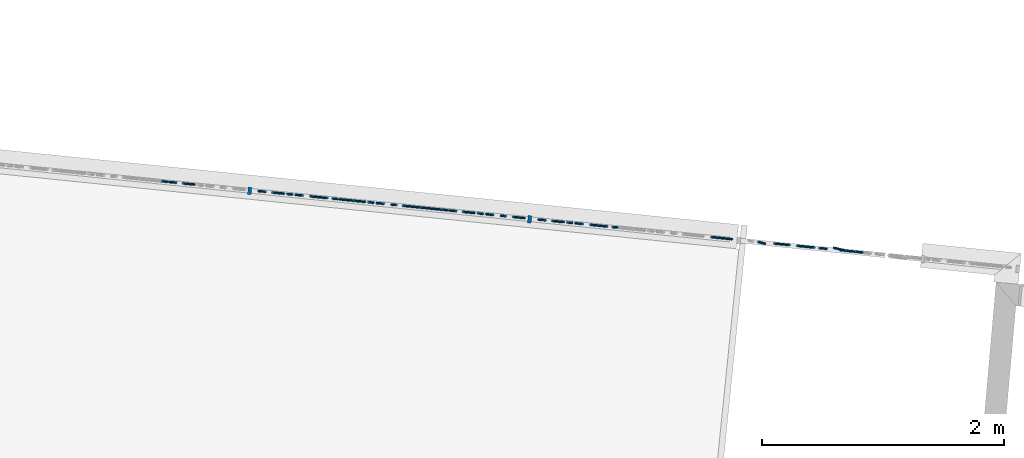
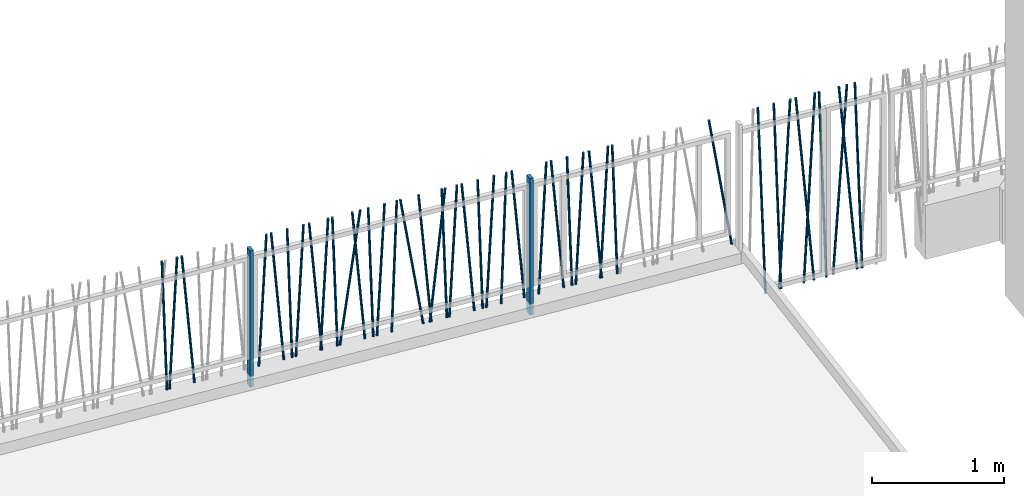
# One storey, part 16 of 171: 44 columns.
"""IFC2X3 building model written with IfcOpenShell, lengths in millimetres."""

from ifc_helpers import new_model, entity, si_unit, converted_unit, derived_unit, money_unit, direction, frame, origin_with_axes, origin_2d_with_axis, place, context, subcontext, project, spatial, rectangle, circle, extrude, clip, halfspace, material, type_object, element, save


model = new_model("IFC2X3")

# Units and contexts
model_context = context("Model", 3, precision=0.01, world=origin_with_axes(), true_north=direction((0.0, 1.0)))
body_context = subcontext(model_context, "Body", "Model", "MODEL_VIEW")
ifc_project = project(units=[si_unit("LENGTHUNIT", "METRE", prefix="MILLI"), si_unit("AREAUNIT", "SQUARE_METRE"), si_unit("VOLUMEUNIT", "CUBIC_METRE"), converted_unit("PLANEANGLEUNIT", "DEGREE", entity("IfcPlaneAngleMeasure", 0.0174532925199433), si_unit("PLANEANGLEUNIT", "RADIAN"), dimensions=[0, 0, 0, 0, 0, 0, 0]), money_unit("USD"), converted_unit("TIMEUNIT", "Year", entity("IfcTimeMeasure", 31557600.0), si_unit("TIMEUNIT", "SECOND"), dimensions=[0, 0, 1, 0, 0, 0, 0]), si_unit("MASSUNIT", "GRAM", prefix="KILO"), si_unit("THERMODYNAMICTEMPERATUREUNIT", "DEGREE_CELSIUS"), si_unit("LUMINOUSINTENSITYUNIT", "LUMEN"), si_unit("ENERGYUNIT", "JOULE", prefix="MEGA"), derived_unit("THERMALCONDUCTANCEUNIT", [(si_unit("POWERUNIT", "WATT"), 1), (si_unit("LENGTHUNIT", "METRE"), -1), (si_unit("THERMODYNAMICTEMPERATUREUNIT", "KELVIN"), -1)]), derived_unit("SPECIFICHEATCAPACITYUNIT", [(si_unit("ENERGYUNIT", "JOULE"), 1), (si_unit("MASSUNIT", "GRAM", prefix="KILO"), -1), (si_unit("THERMODYNAMICTEMPERATUREUNIT", "KELVIN"), -1)]), derived_unit("MASSDENSITYUNIT", [(si_unit("MASSUNIT", "GRAM", prefix="KILO"), 1), (si_unit("VOLUMEUNIT", "CUBIC_METRE"), -1)])], contexts=[model_context])

# Site, building, storey
site_placement = place(None, origin_with_axes())
site = spatial("IfcSite", under=ifc_project, at=site_placement, Name="Site", CompositionType="ELEMENT")
building_placement = place(site_placement, origin_with_axes())
building = spatial("IfcBuilding", under=site, at=building_placement, Name="Bâtiment", CompositionType="ELEMENT")
storey_placement = place(building_placement, frame((0.0, 0.0, 3000.0), z_axis=(0.0, 0.0, 1.0), x_axis=(1.0, 0.0, 0.0)))
storey = spatial("IfcBuildingStorey", under=building, at=storey_placement, Name="rdc", CompositionType="ELEMENT", Elevation=3000.0)

# Columns
ifc_material = material(Name="Empty Fill 2959611567")
column_type_1 = type_object("IfcColumnType", Name="Empty Fill 2959611567 D20", PredefinedType="NOTDEFINED")
column_1_placement = place(storey_placement, frame((2248791.874367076, -607236.5307750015, 149.9999999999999), z_axis=(0.0, 0.0, 1.0), x_axis=(0.1011032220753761, 0.9948759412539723, 0.0)))
element("IfcColumn", 1, at=column_1_placement, inside=storey, type_object=column_type_1, material=ifc_material, Name="Pilier-019", context=body_context, shape_type="Clipping", body=[
    clip(clip(extrude(circle(Radius=10.0, at=origin_2d_with_axis()), frame((0.0, -0.4955357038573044, -3.128689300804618), z_axis=(0.0, 0.1564344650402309, 0.9876883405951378), x_axis=(1.0, 0.0, 0.0)), (0.0, 0.0, 1.0), 1221.293528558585), halfspace(frame((0.0, 0.0, 0.0), z_axis=(0.0, 0.0, 1.0), x_axis=(0.0, -1.0, 0.0)), True)), halfspace(frame((0.0, 0.0, 1200.0), z_axis=(0.0, 0.0, -1.0), x_axis=(0.0, 1.0, 0.0)), True)),
])
column_2_placement = place(storey_placement, frame((2244146.106083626, -606764.4094551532, 149.9999999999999), z_axis=(0.0, 0.0, 1.0), x_axis=(-0.101103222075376, -0.9948759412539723, 0.0)))
element("IfcColumn", 2, at=column_2_placement, inside=storey, type_object=column_type_1, material=ifc_material, Name="Pilier-019", context=body_context, shape_type="Clipping", body=[
    clip(clip(extrude(circle(Radius=10.0, at=origin_2d_with_axis()), frame((0.0, -0.05485622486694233, -1.046719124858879), z_axis=(0.0, -0.05233595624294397, -0.9986295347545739), x_axis=(-1.0, 0.0, 0.0)), (0.0, 0.0, -1.0), 1203.743126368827), halfspace(frame((0.0, 0.0, 0.0), z_axis=(0.0, 0.0, 1.0), x_axis=(0.0, -1.0, 0.0)), True)), halfspace(frame((0.0, 0.0, 1200.0), z_axis=(0.0, 0.0, -1.0), x_axis=(0.0, 1.0, 0.0)), True)),
])
column_3_placement = place(storey_placement, frame((2244125.080000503, -606762.2727015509, 149.9999999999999), z_axis=(0.0, 0.0, 1.0), x_axis=(0.1011032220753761, 0.9948759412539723, 0.0)))
element("IfcColumn", 3, at=column_3_placement, inside=storey, type_object=column_type_1, material=ifc_material, Name="Pilier-019", context=body_context, shape_type="Clipping", body=[
    clip(clip(extrude(circle(Radius=10.0, at=origin_2d_with_axis()), frame((0.0, -0.02437434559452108, -0.6979899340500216), z_axis=(0.0, 0.03489949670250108, 0.9993908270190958), x_axis=(1.0, 0.0, 0.0)), (0.0, 0.0, 1.0), 1202.128283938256), halfspace(frame((0.0, 0.0, 0.0), z_axis=(0.0, 0.0, 1.0), x_axis=(0.0, -1.0, 0.0)), True)), halfspace(frame((0.0, 0.0, 1200.0), z_axis=(0.0, 0.0, -1.0), x_axis=(0.0, 1.0, 0.0)), True)),
])
column_4_placement = place(storey_placement, frame((2244352.1850893, -606785.3520175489, 149.9999999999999), z_axis=(0.0, 0.0, 1.0), x_axis=(0.1011032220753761, 0.9948759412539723, 0.0)))
element("IfcColumn", 4, at=column_4_placement, inside=storey, type_object=column_type_1, material=ifc_material, Name="Pilier-019", context=body_context, shape_type="Clipping", body=[
    clip(clip(extrude(circle(Radius=10.0, at=origin_2d_with_axis()), frame((0.0, -0.152502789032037, -1.743114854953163), z_axis=(0.0, 0.08715574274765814, 0.9961946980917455), x_axis=(1.0, 0.0, 0.0)), (0.0, 0.0, 1.0), 1208.083351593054), halfspace(frame((0.0, 0.0, 0.0), z_axis=(0.0, 0.0, 1.0), x_axis=(0.0, -1.0, 0.0)), True)), halfspace(frame((0.0, 0.0, 1200.0), z_axis=(0.0, 0.0, -1.0), x_axis=(0.0, 1.0, 0.0)), True)),
])
column_5_placement = place(storey_placement, frame((2245982.481847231, -606951.0292123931, 149.9999999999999), z_axis=(0.0, 0.0, 1.0), x_axis=(-0.101103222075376, -0.9948759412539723, 0.0)))
element("IfcColumn", 5, at=column_5_placement, inside=storey, type_object=column_type_1, material=ifc_material, Name="Pilier-019", context=body_context, shape_type="Clipping", body=[
    clip(clip(extrude(circle(Radius=10.0, at=origin_2d_with_axis()), frame((0.0, -0.02437434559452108, -0.6979899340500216), z_axis=(0.0, -0.03489949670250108, -0.9993908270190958), x_axis=(-1.0, 0.0, 0.0)), (0.0, 0.0, -1.0), 1202.128283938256), halfspace(frame((0.0, 0.0, 0.0), z_axis=(0.0, 0.0, 1.0), x_axis=(0.0, -1.0, 0.0)), True)), halfspace(frame((0.0, 0.0, 1200.0), z_axis=(0.0, 0.0, -1.0), x_axis=(0.0, 1.0, 0.0)), True)),
])
column_6_placement = place(storey_placement, frame((2245394.328245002, -606891.2587206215, 149.9999999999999), z_axis=(0.0, 0.0, 1.0), x_axis=(-0.101103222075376, -0.9948759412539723, 0.0)))
element("IfcColumn", 6, at=column_6_placement, inside=storey, type_object=column_type_1, material=ifc_material, Name="Pilier-019", context=body_context, shape_type="Clipping", body=[
    clip(clip(extrude(circle(Radius=10.0, at=origin_2d_with_axis()), frame((0.0, -0.05485622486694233, -1.046719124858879), z_axis=(0.0, -0.05233595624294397, -0.9986295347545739), x_axis=(-1.0, 0.0, 0.0)), (0.0, 0.0, -1.0), 1203.743126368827), halfspace(frame((0.0, 0.0, 0.0), z_axis=(0.0, 0.0, 1.0), x_axis=(0.0, -1.0, 0.0)), True)), halfspace(frame((0.0, 0.0, 1200.0), z_axis=(0.0, 0.0, -1.0), x_axis=(0.0, 1.0, 0.0)), True)),
])
for number, where, z_axis, x_axis, name in (
    (7, (2245829.642914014, -606935.4971164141, 149.9999999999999), (0.0, 0.0, 1.0), (0.1011032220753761, 0.9948759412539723, 0.0), "Pilier-019"),
    (8, (2245533.429417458, -606905.3947310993, 149.9999999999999), (0.0, 0.0, 1.0), (0.1011032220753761, 0.9948759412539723, 0.0), "Pilier-019"),
):
    element("IfcColumn", number, at=place(storey_placement, frame(where, z_axis=z_axis, x_axis=x_axis)), inside=storey, type_object=column_type_1, material=ifc_material, Name=name, context=body_context, shape_type="Clipping", body=[
        clip(clip(extrude(circle(Radius=10.0, at=origin_2d_with_axis()), frame((0.0, -0.02437434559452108, -0.6979899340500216), z_axis=(0.0, 0.03489949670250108, 0.9993908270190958), x_axis=(1.0, 0.0, 0.0)), (0.0, 0.0, 1.0), 1202.128283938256), halfspace(frame((0.0, 0.0, 0.0), z_axis=(0.0, 0.0, 1.0), x_axis=(0.0, -1.0, 0.0)), True)), halfspace(frame((0.0, 0.0, 1200.0), z_axis=(0.0, 0.0, -1.0), x_axis=(0.0, 1.0, 0.0)), True)),
    ])
column_7_placement = place(storey_placement, frame((2245860.775720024, -606938.6609551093, 149.9999999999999), z_axis=(0.0, 0.0, 1.0), x_axis=(-0.101103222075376, -0.9948759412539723, 0.0)))
element("IfcColumn", 9, at=column_7_placement, inside=storey, type_object=column_type_1, material=ifc_material, Name="Pilier-019", context=body_context, shape_type="Clipping", body=[
    clip(clip(extrude(circle(Radius=10.0, at=origin_2d_with_axis()), frame((0.0, -0.05485622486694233, -1.046719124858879), z_axis=(0.0, -0.05233595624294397, -0.9986295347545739), x_axis=(-1.0, 0.0, 0.0)), (0.0, 0.0, -1.0), 1203.743126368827), halfspace(frame((0.0, 0.0, 0.0), z_axis=(0.0, 0.0, 1.0), x_axis=(0.0, -1.0, 0.0)), True)), halfspace(frame((0.0, 0.0, 1200.0), z_axis=(0.0, 0.0, -1.0), x_axis=(0.0, 1.0, 0.0)), True)),
])
column_8_placement = place(storey_placement, frame((2246242.480942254, -606977.4513472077, 149.9999999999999), z_axis=(0.0, 0.0, 1.0), x_axis=(0.1011032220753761, 0.9948759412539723, 0.0)))
element("IfcColumn", 10, at=column_8_placement, inside=storey, type_object=column_type_1, material=ifc_material, Name="Pilier-019", context=body_context, shape_type="Clipping", body=[
    clip(clip(extrude(circle(Radius=10.0, at=origin_2d_with_axis()), frame((0.0, -0.4955357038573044, -3.128689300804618), z_axis=(0.0, 0.1564344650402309, 0.9876883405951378), x_axis=(1.0, 0.0, 0.0)), (0.0, 0.0, 1.0), 1221.293528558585), halfspace(frame((0.0, 0.0, 0.0), z_axis=(0.0, 0.0, 1.0), x_axis=(0.0, -1.0, 0.0)), True)), halfspace(frame((0.0, 0.0, 1200.0), z_axis=(0.0, 0.0, -1.0), x_axis=(0.0, 1.0, 0.0)), True)),
])
for number, where, z_axis, x_axis, name in (
    (11, (2246308.389985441, -606984.1492844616, 149.9999999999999), (0.0, 0.0, 1.0), (0.1011032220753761, 0.9948759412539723, 0.0), "Pilier-019"),
    (12, (2247078.294760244, -607062.390048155, 149.9999999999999), (0.0, 0.0, 1.0), (0.1011032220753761, 0.9948759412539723, 0.0), "Pilier-019"),
):
    element("IfcColumn", number, at=place(storey_placement, frame(where, z_axis=z_axis, x_axis=x_axis)), inside=storey, type_object=column_type_1, material=ifc_material, Name=name, context=body_context, shape_type="Clipping", body=[
        clip(clip(extrude(circle(Radius=10.0, at=origin_2d_with_axis()), frame((0.0, -0.152502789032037, -1.743114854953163), z_axis=(0.0, 0.08715574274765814, 0.9961946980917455), x_axis=(1.0, 0.0, 0.0)), (0.0, 0.0, 1.0), 1208.083351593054), halfspace(frame((0.0, 0.0, 0.0), z_axis=(0.0, 0.0, 1.0), x_axis=(0.0, -1.0, 0.0)), True)), halfspace(frame((0.0, 0.0, 1200.0), z_axis=(0.0, 0.0, -1.0), x_axis=(0.0, 1.0, 0.0)), True)),
    ])
column_9_placement = place(storey_placement, frame((2245190.790650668, -606870.5744264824, 149.9999999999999), z_axis=(0.0, 0.0, 1.0), x_axis=(-0.101103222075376, -0.9948759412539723, 0.0)))
element("IfcColumn", 13, at=column_9_placement, inside=storey, type_object=column_type_1, material=ifc_material, Name="Pilier-019", context=body_context, shape_type="Clipping", body=[
    clip(clip(extrude(circle(Radius=10.0, at=origin_2d_with_axis()), frame((0.0, -0.05485622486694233, -1.046719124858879), z_axis=(0.0, -0.05233595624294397, -0.9986295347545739), x_axis=(-1.0, 0.0, 0.0)), (0.0, 0.0, -1.0), 1203.743126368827), halfspace(frame((0.0, 0.0, 0.0), z_axis=(0.0, 0.0, 1.0), x_axis=(0.0, -1.0, 0.0)), True)), halfspace(frame((0.0, 0.0, 1200.0), z_axis=(0.0, 0.0, -1.0), x_axis=(0.0, 1.0, 0.0)), True)),
])
for number, where, z_axis, x_axis, name in (
    (14, (2245404.182133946, -606892.2601117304, 149.9999999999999), (0.0, 0.0, 1.0), (0.1011032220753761, 0.9948759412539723, 0.0), "Pilier-019"),
    (15, (2245760.534506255, -606928.4740470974, 149.9999999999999), (0.0, 0.0, 1.0), (0.1011032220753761, 0.9948759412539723, 0.0), "Pilier-019"),
):
    element("IfcColumn", number, at=place(storey_placement, frame(where, z_axis=z_axis, x_axis=x_axis)), inside=storey, type_object=column_type_1, material=ifc_material, Name=name, context=body_context, shape_type="Clipping", body=[
        clip(clip(extrude(circle(Radius=10.0, at=origin_2d_with_axis()), frame((0.0, -0.152502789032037, -1.743114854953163), z_axis=(0.0, 0.08715574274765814, 0.9961946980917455), x_axis=(1.0, 0.0, 0.0)), (0.0, 0.0, 1.0), 1208.083351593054), halfspace(frame((0.0, 0.0, 0.0), z_axis=(0.0, 0.0, 1.0), x_axis=(0.0, -1.0, 0.0)), True)), halfspace(frame((0.0, 0.0, 1200.0), z_axis=(0.0, 0.0, -1.0), x_axis=(0.0, 1.0, 0.0)), True)),
    ])
column_10_placement = place(storey_placement, frame((2246298.536096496, -606983.1478933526, 149.9999999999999), z_axis=(0.0, 0.0, 1.0), x_axis=(-0.101103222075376, -0.9948759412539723, 0.0)))
element("IfcColumn", 16, at=column_10_placement, inside=storey, type_object=column_type_1, material=ifc_material, Name="Pilier-019", context=body_context, shape_type="Clipping", body=[
    clip(clip(extrude(circle(Radius=10.0, at=origin_2d_with_axis()), frame((0.0, -0.2197276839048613, -2.090569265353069), z_axis=(0.0, -0.1045284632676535, -0.9945218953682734), x_axis=(-1.0, 0.0, 0.0)), (0.0, 0.0, -1.0), 1210.814104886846), halfspace(frame((0.0, 0.0, 0.0), z_axis=(0.0, 0.0, 1.0), x_axis=(0.0, -1.0, 0.0)), True)), halfspace(frame((0.0, 0.0, 1200.0), z_axis=(0.0, 0.0, -1.0), x_axis=(0.0, 1.0, 0.0)), True)),
])
column_11_placement = place(storey_placement, frame((2246764.983571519, -607030.5501278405, 149.9999999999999), z_axis=(0.0, 0.0, 1.0), x_axis=(-0.101103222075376, -0.9948759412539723, 0.0)))
element("IfcColumn", 17, at=column_11_placement, inside=storey, type_object=column_type_1, material=ifc_material, Name="Pilier-019", context=body_context, shape_type="Clipping", body=[
    clip(clip(extrude(circle(Radius=10.0, at=origin_2d_with_axis()), frame((0.0, -0.05485622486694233, -1.046719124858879), z_axis=(0.0, -0.05233595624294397, -0.9986295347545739), x_axis=(-1.0, 0.0, 0.0)), (0.0, 0.0, -1.0), 1203.743126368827), halfspace(frame((0.0, 0.0, 0.0), z_axis=(0.0, 0.0, 1.0), x_axis=(0.0, -1.0, 0.0)), True)), halfspace(frame((0.0, 0.0, 1200.0), z_axis=(0.0, 0.0, -1.0), x_axis=(0.0, 1.0, 0.0)), True)),
])
for number, where, z_axis, x_axis, name in (
    (18, (2245159.657844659, -606867.4105877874, 149.9999999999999), (0.0, 0.0, 1.0), (0.1011032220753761, 0.9948759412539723, 0.0), "Pilier-019"),
    (19, (2246733.85076551, -607027.3862891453, 149.9999999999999), (0.0, 0.0, 1.0), (0.1011032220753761, 0.9948759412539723, 0.0), "Pilier-019"),
):
    element("IfcColumn", number, at=place(storey_placement, frame(where, z_axis=z_axis, x_axis=x_axis)), inside=storey, type_object=column_type_1, material=ifc_material, Name=name, context=body_context, shape_type="Clipping", body=[
        clip(clip(extrude(circle(Radius=10.0, at=origin_2d_with_axis()), frame((0.0, -0.02437434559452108, -0.6979899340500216), z_axis=(0.0, 0.03489949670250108, 0.9993908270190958), x_axis=(1.0, 0.0, 0.0)), (0.0, 0.0, 1.0), 1202.128283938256), halfspace(frame((0.0, 0.0, 0.0), z_axis=(0.0, 0.0, 1.0), x_axis=(0.0, -1.0, 0.0)), True)), halfspace(frame((0.0, 0.0, 1200.0), z_axis=(0.0, 0.0, -1.0), x_axis=(0.0, 1.0, 0.0)), True)),
    ])
column_12_placement = place(storey_placement, frame((2246886.689698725, -607042.9183851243, 149.9999999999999), z_axis=(0.0, 0.0, 1.0), x_axis=(-0.101103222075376, -0.9948759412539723, 0.0)))
element("IfcColumn", 20, at=column_12_placement, inside=storey, type_object=column_type_1, material=ifc_material, Name="Pilier-019", context=body_context, shape_type="Clipping", body=[
    clip(clip(extrude(circle(Radius=10.0, at=origin_2d_with_axis()), frame((0.0, -0.02437434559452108, -0.6979899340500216), z_axis=(0.0, -0.03489949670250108, -0.9993908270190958), x_axis=(-1.0, 0.0, 0.0)), (0.0, 0.0, -1.0), 1202.128283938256), halfspace(frame((0.0, 0.0, 0.0), z_axis=(0.0, 0.0, 1.0), x_axis=(0.0, -1.0, 0.0)), True)), halfspace(frame((0.0, 0.0, 1200.0), z_axis=(0.0, 0.0, -1.0), x_axis=(0.0, 1.0, 0.0)), True)),
])
column_13_placement = place(storey_placement, frame((2246664.742357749, -607020.3632198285, 149.9999999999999), z_axis=(0.0, 0.0, 1.0), x_axis=(0.1011032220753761, 0.9948759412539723, 0.0)))
element("IfcColumn", 21, at=column_13_placement, inside=storey, type_object=column_type_1, material=ifc_material, Name="Pilier-019", context=body_context, shape_type="Clipping", body=[
    clip(clip(extrude(circle(Radius=10.0, at=origin_2d_with_axis()), frame((0.0, -0.152502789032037, -1.743114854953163), z_axis=(0.0, 0.08715574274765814, 0.9961946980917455), x_axis=(1.0, 0.0, 0.0)), (0.0, 0.0, 1.0), 1208.083351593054), halfspace(frame((0.0, 0.0, 0.0), z_axis=(0.0, 0.0, 1.0), x_axis=(0.0, -1.0, 0.0)), True)), halfspace(frame((0.0, 0.0, 1200.0), z_axis=(0.0, 0.0, -1.0), x_axis=(0.0, 1.0, 0.0)), True)),
])
column_14_placement = place(storey_placement, frame((2246458.663352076, -606999.4206574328, 149.9999999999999), z_axis=(0.0, 0.0, 1.0), x_axis=(-0.101103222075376, -0.9948759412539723, 0.0)))
element("IfcColumn", 22, at=column_14_placement, inside=storey, type_object=column_type_1, material=ifc_material, Name="Pilier-019", context=body_context, shape_type="Clipping", body=[
    clip(clip(extrude(circle(Radius=10.0, at=origin_2d_with_axis()), frame((0.0, -0.05485622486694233, -1.046719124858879), z_axis=(0.0, -0.05233595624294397, -0.9986295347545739), x_axis=(-1.0, 0.0, 0.0)), (0.0, 0.0, -1.0), 1203.743126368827), halfspace(frame((0.0, 0.0, 0.0), z_axis=(0.0, 0.0, 1.0), x_axis=(0.0, -1.0, 0.0)), True)), halfspace(frame((0.0, 0.0, 1200.0), z_axis=(0.0, 0.0, -1.0), x_axis=(0.0, 1.0, 0.0)), True)),
])
column_15_placement = place(storey_placement, frame((2246437.637268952, -606997.2839038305, 149.9999999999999), z_axis=(0.0, 0.0, 1.0), x_axis=(0.1011032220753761, 0.9948759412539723, 0.0)))
element("IfcColumn", 23, at=column_15_placement, inside=storey, type_object=column_type_1, material=ifc_material, Name="Pilier-019", context=body_context, shape_type="Clipping", body=[
    clip(clip(extrude(circle(Radius=10.0, at=origin_2d_with_axis()), frame((0.0, -0.02437434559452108, -0.6979899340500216), z_axis=(0.0, 0.03489949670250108, 0.9993908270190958), x_axis=(1.0, 0.0, 0.0)), (0.0, 0.0, 1.0), 1202.128283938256), halfspace(frame((0.0, 0.0, 0.0), z_axis=(0.0, 0.0, 1.0), x_axis=(0.0, -1.0, 0.0)), True)), halfspace(frame((0.0, 0.0, 1200.0), z_axis=(0.0, 0.0, -1.0), x_axis=(0.0, 1.0, 0.0)), True)),
])
column_16_placement = place(storey_placement, frame((2245090.549436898, -606860.3875184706, 149.9999999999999), z_axis=(0.0, 0.0, 1.0), x_axis=(0.1011032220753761, 0.9948759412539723, 0.0)))
element("IfcColumn", 24, at=column_16_placement, inside=storey, type_object=column_type_1, material=ifc_material, Name="Pilier-019", context=body_context, shape_type="Clipping", body=[
    clip(clip(extrude(circle(Radius=10.0, at=origin_2d_with_axis()), frame((0.0, -0.152502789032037, -1.743114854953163), z_axis=(0.0, 0.08715574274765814, 0.9961946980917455), x_axis=(1.0, 0.0, 0.0)), (0.0, 0.0, 1.0), 1208.083351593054), halfspace(frame((0.0, 0.0, 0.0), z_axis=(0.0, 0.0, 1.0), x_axis=(0.0, -1.0, 0.0)), True)), halfspace(frame((0.0, 0.0, 1200.0), z_axis=(0.0, 0.0, -1.0), x_axis=(0.0, 1.0, 0.0)), True)),
])
column_17_placement = place(storey_placement, frame((2244884.470431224, -606839.4449560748, 149.9999999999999), z_axis=(0.0, 0.0, 1.0), x_axis=(-0.101103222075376, -0.9948759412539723, 0.0)))
element("IfcColumn", 25, at=column_17_placement, inside=storey, type_object=column_type_1, material=ifc_material, Name="Pilier-019", context=body_context, shape_type="Clipping", body=[
    clip(clip(extrude(circle(Radius=10.0, at=origin_2d_with_axis()), frame((0.0, -0.05485622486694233, -1.046719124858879), z_axis=(0.0, -0.05233595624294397, -0.9986295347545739), x_axis=(-1.0, 0.0, 0.0)), (0.0, 0.0, -1.0), 1203.743126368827), halfspace(frame((0.0, 0.0, 0.0), z_axis=(0.0, 0.0, 1.0), x_axis=(0.0, -1.0, 0.0)), True)), halfspace(frame((0.0, 0.0, 1200.0), z_axis=(0.0, 0.0, -1.0), x_axis=(0.0, 1.0, 0.0)), True)),
])
column_18_placement = place(storey_placement, frame((2245554.455500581, -606907.5314847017, 149.9999999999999), z_axis=(0.0, 0.0, 1.0), x_axis=(-0.101103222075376, -0.9948759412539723, 0.0)))
element("IfcColumn", 26, at=column_18_placement, inside=storey, type_object=column_type_1, material=ifc_material, Name="Pilier-019", context=body_context, shape_type="Clipping", body=[
    clip(clip(extrude(circle(Radius=10.0, at=origin_2d_with_axis()), frame((0.0, -0.3911900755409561, -2.78346201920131), z_axis=(0.0, -0.1391731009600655, -0.9902680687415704), x_axis=(-1.0, 0.0, 0.0)), (0.0, 0.0, -1.0), 1217.414720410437), halfspace(frame((0.0, 0.0, 0.0), z_axis=(0.0, 0.0, 1.0), x_axis=(0.0, -1.0, 0.0)), True)), halfspace(frame((0.0, 0.0, 1200.0), z_axis=(0.0, 0.0, -1.0), x_axis=(0.0, 1.0, 0.0)), True)),
])
column_19_placement = place(storey_placement, frame((2247706.885513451, -607126.269922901, 149.9999999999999), z_axis=(0.0, 0.0, 1.0), x_axis=(-0.101103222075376, -0.9948759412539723, 0.0)))
element("IfcColumn", 27, at=column_19_placement, inside=storey, type_object=column_type_1, material=ifc_material, Name="Pilier-019", context=body_context, shape_type="Clipping", body=[
    clip(clip(extrude(circle(Radius=10.0, at=origin_2d_with_axis()), frame((0.0, -0.05485622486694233, -1.046719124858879), z_axis=(0.0, -0.05233595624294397, -0.9986295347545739), x_axis=(-1.0, 0.0, 0.0)), (0.0, 0.0, -1.0), 1203.743126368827), halfspace(frame((0.0, 0.0, 0.0), z_axis=(0.0, 0.0, 1.0), x_axis=(0.0, -1.0, 0.0)), True)), halfspace(frame((0.0, 0.0, 1200.0), z_axis=(0.0, 0.0, -1.0), x_axis=(0.0, 1.0, 0.0)), True)),
])
column_20_placement = place(storey_placement, frame((2247845.986685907, -607140.4059333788, 149.9999999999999), z_axis=(0.0, 0.0, 1.0), x_axis=(0.1011032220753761, 0.9948759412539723, 0.0)))
element("IfcColumn", 28, at=column_20_placement, inside=storey, type_object=column_type_1, material=ifc_material, Name="Pilier-019", context=body_context, shape_type="Clipping", body=[
    clip(clip(extrude(circle(Radius=10.0, at=origin_2d_with_axis()), frame((0.0, -0.02437434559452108, -0.6979899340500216), z_axis=(0.0, 0.03489949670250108, 0.9993908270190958), x_axis=(1.0, 0.0, 0.0)), (0.0, 0.0, 1.0), 1202.128283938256), halfspace(frame((0.0, 0.0, 0.0), z_axis=(0.0, 0.0, 1.0), x_axis=(0.0, -1.0, 0.0)), True)), halfspace(frame((0.0, 0.0, 1200.0), z_axis=(0.0, 0.0, -1.0), x_axis=(0.0, 1.0, 0.0)), True)),
])
column_21_placement = place(storey_placement, frame((2247403.106705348, -607095.3987207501, 149.9999999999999), z_axis=(0.0, 0.0, 1.0), x_axis=(0.1011032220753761, 0.9948759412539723, 0.0)))
element("IfcColumn", 29, at=column_21_placement, inside=storey, type_object=column_type_1, material=ifc_material, Name="Pilier-019", context=body_context, shape_type="Clipping", body=[
    clip(clip(extrude(circle(Radius=10.0, at=origin_2d_with_axis()), frame((0.0, -0.152502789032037, -1.743114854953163), z_axis=(0.0, 0.08715574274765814, 0.9961946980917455), x_axis=(1.0, 0.0, 0.0)), (0.0, 0.0, 1.0), 1208.083351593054), halfspace(frame((0.0, 0.0, 0.0), z_axis=(0.0, 0.0, 1.0), x_axis=(0.0, -1.0, 0.0)), True)), halfspace(frame((0.0, 0.0, 1200.0), z_axis=(0.0, 0.0, -1.0), x_axis=(0.0, 1.0, 0.0)), True)),
])
column_22_placement = place(storey_placement, frame((2247503.347919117, -607105.585628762, 149.9999999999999), z_axis=(0.0, 0.0, 1.0), x_axis=(-0.101103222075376, -0.9948759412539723, 0.0)))
element("IfcColumn", 30, at=column_22_placement, inside=storey, type_object=column_type_1, material=ifc_material, Name="Pilier-019", context=body_context, shape_type="Clipping", body=[
    clip(clip(extrude(circle(Radius=10.0, at=origin_2d_with_axis()), frame((0.0, -0.05485622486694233, -1.046719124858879), z_axis=(0.0, -0.05233595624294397, -0.9986295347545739), x_axis=(-1.0, 0.0, 0.0)), (0.0, 0.0, -1.0), 1203.743126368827), halfspace(frame((0.0, 0.0, 0.0), z_axis=(0.0, 0.0, 1.0), x_axis=(0.0, -1.0, 0.0)), True)), halfspace(frame((0.0, 0.0, 1200.0), z_axis=(0.0, 0.0, -1.0), x_axis=(0.0, 1.0, 0.0)), True)),
])
column_23_placement = place(storey_placement, frame((2247716.739402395, -607127.27131401, 149.9999999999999), z_axis=(0.0, 0.0, 1.0), x_axis=(0.1011032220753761, 0.9948759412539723, 0.0)))
element("IfcColumn", 31, at=column_23_placement, inside=storey, type_object=column_type_1, material=ifc_material, Name="Pilier-019", context=body_context, shape_type="Clipping", body=[
    clip(clip(extrude(circle(Radius=10.0, at=origin_2d_with_axis()), frame((0.0, -0.152502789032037, -1.743114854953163), z_axis=(0.0, 0.08715574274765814, 0.9961946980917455), x_axis=(1.0, 0.0, 0.0)), (0.0, 0.0, 1.0), 1208.083351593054), halfspace(frame((0.0, 0.0, 0.0), z_axis=(0.0, 0.0, 1.0), x_axis=(0.0, -1.0, 0.0)), True)), halfspace(frame((0.0, 0.0, 1200.0), z_axis=(0.0, 0.0, -1.0), x_axis=(0.0, 1.0, 0.0)), True)),
])
column_24_placement = place(storey_placement, frame((2247472.215113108, -607102.421790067, 149.9999999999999), z_axis=(0.0, 0.0, 1.0), x_axis=(0.1011032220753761, 0.9948759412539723, 0.0)))
element("IfcColumn", 32, at=column_24_placement, inside=storey, type_object=column_type_1, material=ifc_material, Name="Pilier-019", context=body_context, shape_type="Clipping", body=[
    clip(clip(extrude(circle(Radius=10.0, at=origin_2d_with_axis()), frame((0.0, -0.02437434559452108, -0.6979899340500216), z_axis=(0.0, 0.03489949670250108, 0.9993908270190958), x_axis=(1.0, 0.0, 0.0)), (0.0, 0.0, 1.0), 1202.128283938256), halfspace(frame((0.0, 0.0, 0.0), z_axis=(0.0, 0.0, 1.0), x_axis=(0.0, -1.0, 0.0)), True)), halfspace(frame((0.0, 0.0, 1200.0), z_axis=(0.0, 0.0, -1.0), x_axis=(0.0, 1.0, 0.0)), True)),
])
column_25_placement = place(storey_placement, frame((2247197.027699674, -607074.4561583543, 149.9999999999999), z_axis=(0.0, 0.0, 1.0), x_axis=(-0.101103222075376, -0.9948759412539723, 0.0)))
element("IfcColumn", 33, at=column_25_placement, inside=storey, type_object=column_type_1, material=ifc_material, Name="Pilier-019", context=body_context, shape_type="Clipping", body=[
    clip(clip(extrude(circle(Radius=10.0, at=origin_2d_with_axis()), frame((0.0, -0.05485622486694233, -1.046719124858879), z_axis=(0.0, -0.05233595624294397, -0.9986295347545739), x_axis=(-1.0, 0.0, 0.0)), (0.0, 0.0, -1.0), 1203.743126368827), halfspace(frame((0.0, 0.0, 0.0), z_axis=(0.0, 0.0, 1.0), x_axis=(0.0, -1.0, 0.0)), True)), halfspace(frame((0.0, 0.0, 1200.0), z_axis=(0.0, 0.0, -1.0), x_axis=(0.0, 1.0, 0.0)), True)),
])
column_26_placement = place(storey_placement, frame((2249388.225414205, -607297.1343234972, -379.1802337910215), z_axis=(0.0, 0.0, 1.0), x_axis=(-0.101103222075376, -0.9948759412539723, 0.0)))
element("IfcColumn", 34, at=column_26_placement, inside=storey, type_object=column_type_1, material=ifc_material, Name="Pilier-019", context=body_context, shape_type="Clipping", body=[
    clip(clip(extrude(circle(Radius=10.0, at=origin_2d_with_axis()), frame((0.0, -0.05485622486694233, -1.046719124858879), z_axis=(0.0, -0.05233595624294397, -0.9986295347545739), x_axis=(-1.0, 0.0, 0.0)), (0.0, 0.0, -1.0), 1733.64957853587), halfspace(frame((0.0, 0.0, 0.0), z_axis=(0.0, 0.0, 1.0), x_axis=(0.0, -1.0, 0.0)), True)), halfspace(frame((0.0, 0.0, 1729.180233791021), z_axis=(0.0, 0.0, -1.0), x_axis=(0.0, 1.0, 0.0)), True)),
])
for number, where, z_axis, x_axis, name in (
    (35, (2249869.515829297, -607346.044956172, -379.1802337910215), (0.0, 0.0, 1.0), (0.1011032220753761, 0.9948759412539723, 0.0), "Pilier-019"),
    (36, (2249573.30233274, -607315.9425708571, -379.1802337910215), (0.0, 0.0, 1.0), (0.1011032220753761, 0.9948759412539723, 0.0), "Pilier-019"),
):
    element("IfcColumn", number, at=place(storey_placement, frame(where, z_axis=z_axis, x_axis=x_axis)), inside=storey, type_object=column_type_1, material=ifc_material, Name=name, context=body_context, shape_type="Clipping", body=[
        clip(clip(extrude(circle(Radius=10.0, at=origin_2d_with_axis()), frame((0.0, -0.02437434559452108, -0.6979899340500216), z_axis=(0.0, 0.03489949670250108, 0.9993908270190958), x_axis=(1.0, 0.0, 0.0)), (0.0, 0.0, 1.0), 1731.631076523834), halfspace(frame((0.0, 0.0, 0.0), z_axis=(0.0, 0.0, 1.0), x_axis=(0.0, -1.0, 0.0)), True)), halfspace(frame((0.0, 0.0, 1729.180233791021), z_axis=(0.0, 0.0, -1.0), x_axis=(0.0, 1.0, 0.0)), True)),
    ])
column_27_placement = place(storey_placement, frame((2249184.687819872, -607276.4500293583, -379.1802337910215), z_axis=(0.0, 0.0, 1.0), x_axis=(-0.101103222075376, -0.9948759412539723, 0.0)))
element("IfcColumn", 37, at=column_27_placement, inside=storey, type_object=column_type_1, material=ifc_material, Name="Pilier-019", context=body_context, shape_type="Clipping", body=[
    clip(clip(extrude(circle(Radius=10.0, at=origin_2d_with_axis()), frame((0.0, -0.05485622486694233, -1.046719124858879), z_axis=(0.0, -0.05233595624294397, -0.9986295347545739), x_axis=(-1.0, 0.0, 0.0)), (0.0, 0.0, -1.0), 1733.64957853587), halfspace(frame((0.0, 0.0, 0.0), z_axis=(0.0, 0.0, 1.0), x_axis=(0.0, -1.0, 0.0)), True)), halfspace(frame((0.0, 0.0, 1729.180233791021), z_axis=(0.0, 0.0, -1.0), x_axis=(0.0, 1.0, 0.0)), True)),
])
column_28_placement = place(storey_placement, frame((2249199.53075994, -607277.9584275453, -379.1802337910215), z_axis=(0.0, 0.0, 1.0), x_axis=(0.1011032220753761, 0.9948759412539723, 0.0)))
element("IfcColumn", 38, at=column_28_placement, inside=storey, type_object=column_type_1, material=ifc_material, Name="Pilier-019", context=body_context, shape_type="Clipping", body=[
    clip(clip(extrude(circle(Radius=10.0, at=origin_2d_with_axis()), frame((0.0, -0.02437434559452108, -0.6979899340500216), z_axis=(0.0, 0.03489949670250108, 0.9993908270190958), x_axis=(1.0, 0.0, 0.0)), (0.0, 0.0, 1.0), 1731.631076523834), halfspace(frame((0.0, 0.0, 0.0), z_axis=(0.0, 0.0, 1.0), x_axis=(0.0, -1.0, 0.0)), True)), halfspace(frame((0.0, 0.0, 1729.180233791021), z_axis=(0.0, 0.0, -1.0), x_axis=(0.0, 1.0, 0.0)), True)),
])
for number, where, z_axis, x_axis, name in (
    (39, (2249828.082771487, -607341.8343652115, -379.1802337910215), (0.0, 0.0, 1.0), (0.1011032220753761, 0.9948759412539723, 0.0), "Pilier-019"),
    (40, (2249471.730399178, -607305.6204298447, -379.1802337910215), (0.0, 0.0, 1.0), (0.1011032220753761, 0.9948759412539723, 0.0), "Pilier-019"),
):
    element("IfcColumn", number, at=place(storey_placement, frame(where, z_axis=z_axis, x_axis=x_axis)), inside=storey, type_object=column_type_1, material=ifc_material, Name=name, context=body_context, shape_type="Clipping", body=[
        clip(clip(extrude(circle(Radius=10.0, at=origin_2d_with_axis()), frame((0.0, -0.152502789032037, -1.743114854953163), z_axis=(0.0, 0.08715574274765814, 0.9961946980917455), x_axis=(1.0, 0.0, 0.0)), (0.0, 0.0, 1.0), 1739.284967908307), halfspace(frame((0.0, 0.0, 0.0), z_axis=(0.0, 0.0, 1.0), x_axis=(0.0, -1.0, 0.0)), True)), halfspace(frame((0.0, 0.0, 1729.180233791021), z_axis=(0.0, 0.0, -1.0), x_axis=(0.0, 1.0, 0.0)), True)),
    ])
column_29_placement = place(storey_placement, frame((2249065.78428398, -607273.7478365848, -379.1802337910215), z_axis=(0.0, 0.0, 1.0), x_axis=(0.2541944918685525, 0.9671531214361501, 0.0)))
element("IfcColumn", 41, at=column_29_placement, inside=storey, type_object=column_type_1, material=ifc_material, Name="Pilier-019", context=body_context, shape_type="Clipping", body=[
    clip(clip(extrude(circle(Radius=10.0, at=origin_2d_with_axis()), frame((0.0, -0.02420296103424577, -0.6955331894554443), z_axis=(0.0, 0.03477665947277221, 0.9993951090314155), x_axis=(1.0, 0.0, 0.0)), (0.0, 0.0, 1.0), 1731.618740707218), halfspace(frame((0.0, 0.0, 0.0), z_axis=(0.0, 0.0, 1.0), x_axis=(0.0, -1.0, 0.0)), True)), halfspace(frame((0.0, 0.0, 1729.180233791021), z_axis=(0.0, 0.0, -1.0), x_axis=(0.0, 1.0, 0.0)), True)),
])
column_30_placement = place(storey_placement, frame((2249637.406868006, -607308.6918081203, -379.1802337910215), z_axis=(0.0, 0.0, 1.0), x_axis=(-0.2251585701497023, -0.9743221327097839, 0.0)))
element("IfcColumn", 42, at=column_30_placement, inside=storey, type_object=column_type_1, material=ifc_material, Name="Pilier-019", context=body_context, shape_type="Clipping", body=[
    clip(clip(extrude(circle(Radius=10.0, at=origin_2d_with_axis()), frame((0.0, -0.0794922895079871, -1.259638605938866), z_axis=(0.0, -0.0629819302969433, -0.9980146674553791), x_axis=(-1.0, 0.0, 0.0)), (0.0, 0.0, -1.0), 1735.144349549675), halfspace(frame((0.0, 0.0, 0.0), z_axis=(0.0, 0.0, 1.0), x_axis=(0.0, -1.0, 0.0)), True)), halfspace(frame((0.0, 0.0, 1729.180233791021), z_axis=(0.0, 0.0, -1.0), x_axis=(0.0, 1.0, 0.0)), True)),
])
column_type_2 = type_object("IfcColumnType", Name="Empty Fill 2959611567 30 x 60", PredefinedType="NOTDEFINED")
for number, where, z_axis, x_axis, name in (
    (43, (2244809.751257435, -606837.9088992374, 0.0), (0.0, 0.0, 1.0), (0.9948759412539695, -0.1011032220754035, 0.0), "Pilier-019"),
    (44, (2247122.308525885, -607072.920101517, 0.0), (0.0, 0.0, 1.0), (0.9948759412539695, -0.1011032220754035, 0.0), "Pilier-019"),
):
    element("IfcColumn", number, at=place(storey_placement, frame(where, z_axis=z_axis, x_axis=x_axis)), inside=storey, type_object=column_type_2, material=ifc_material, Name=name, context=body_context, shape_type="SweptSolid", body=[
        extrude(rectangle(XDim=30.0, YDim=60.0, at=origin_2d_with_axis()), origin_with_axes(), (0.0, 0.0, 1.0), 1260.0),
    ])

save(model, "model.ifc")
